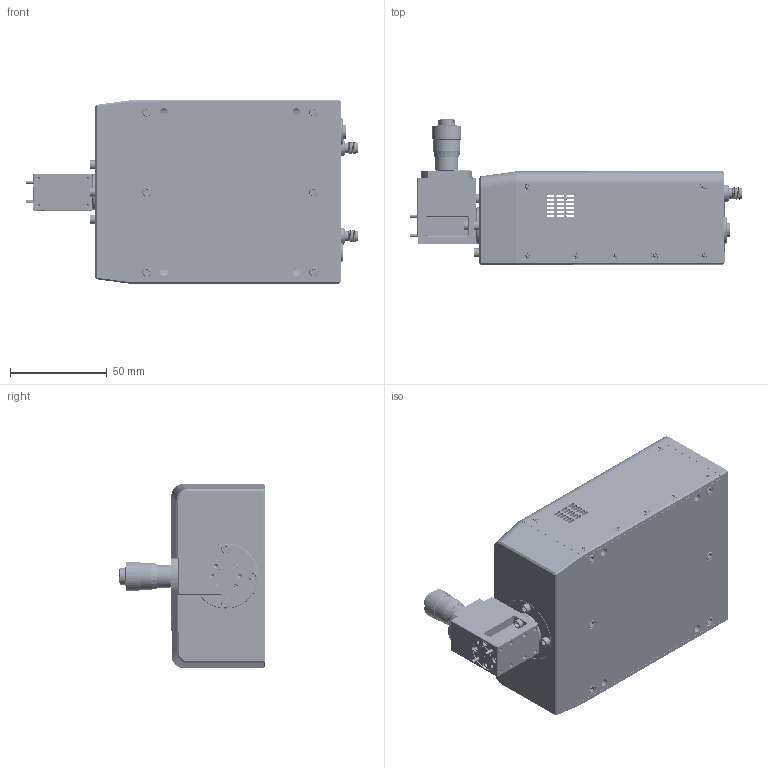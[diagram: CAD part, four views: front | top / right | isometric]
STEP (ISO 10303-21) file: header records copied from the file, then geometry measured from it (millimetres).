
FILE_DESCRIPTION (( 'STEP AP214' ), '1' );
FILE_NAME ('TO-RF-A Mountable.STEP', '2024-11-20T17:46:13', ( '' ), ( '' ), 'SwSTEP 2.0', 'SolidWorks 2021', '' );
FILE_SCHEMA (( 'AUTOMOTIVE_DESIGN' ));
Length unit declared in the file: inch
Products named in the file (1): TO-RF-A Mountable
Bounding box: 171.94 x 75.72 x 95.36 mm (x, y, z)
Volume: 231063.8 mm3; surface area: 125718.9 mm2
Topology: 66 solids, 71 shells, 4274 faces, 11299 edges, 7174 vertices
Faces by surface type: cylinder 1984, plane 1204, cone 778, bspline 271, sphere 21, torus 16
Entity records: 271564 total; most frequent: CARTESIAN_POINT 119101, ORIENTED_EDGE 22256, DIRECTION 17745, EDGE_CURVE 11128, VERTEX_POINT 7168, AXIS2_PLACEMENT_3D 6737, EDGE_LOOP 4704, UNCERTAINTY_MEASURE_WITH_UNIT 4338
